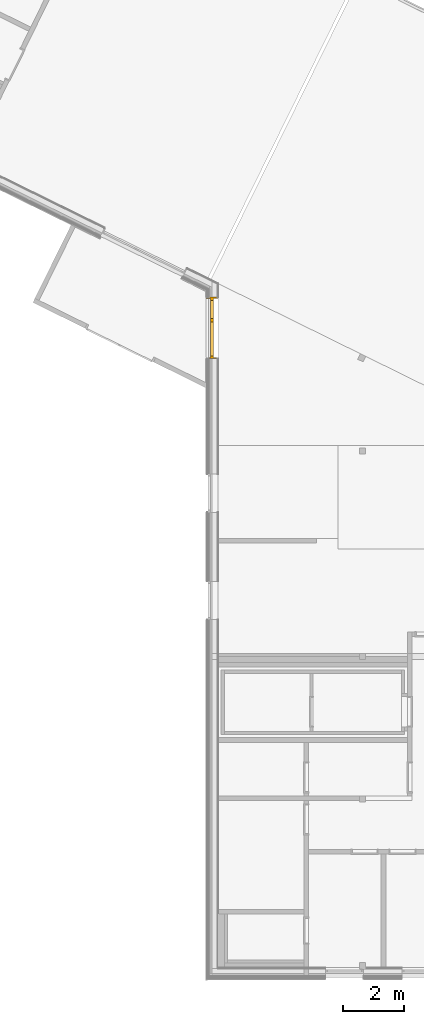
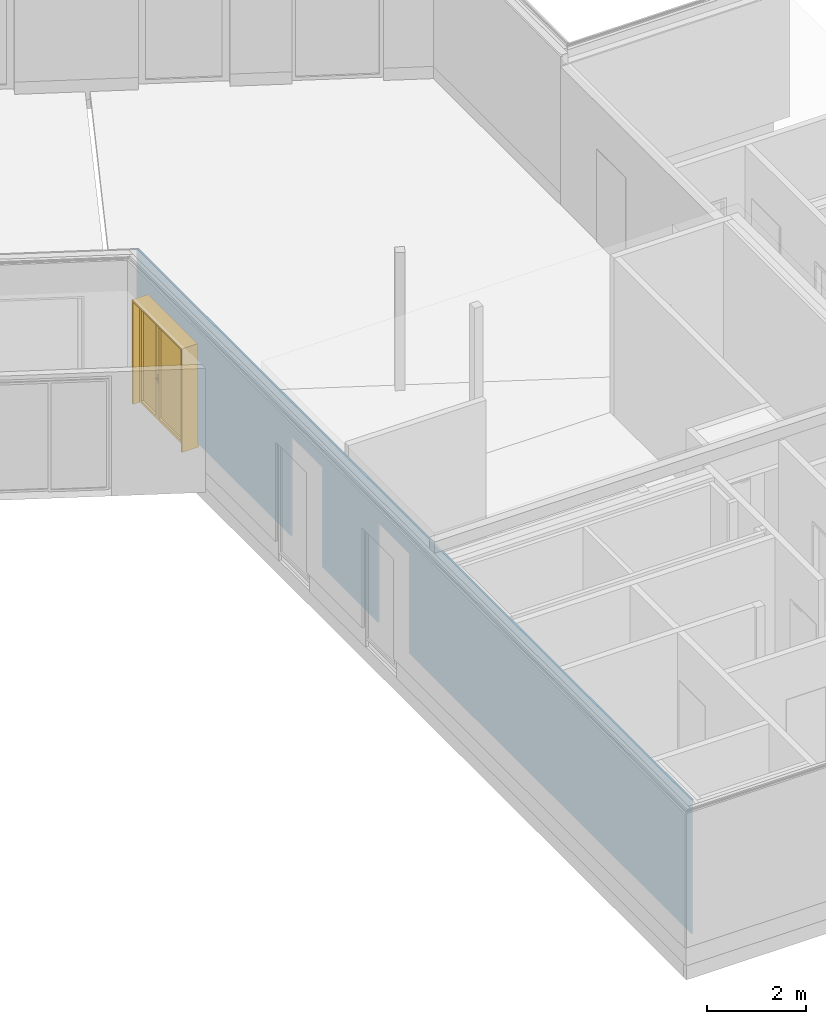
# One storey, part 16 of 23: 1 door, 3 openings, plus 1 element that does not belong to this part.
"""IFC4 building model written with IfcOpenShell, lengths in metres."""

from ifc_helpers import new_model, entity, si_unit, converted_unit, derived_unit, frame, origin, origin_with_axes, place, context, subcontext, project, spatial, polyline, outline, extrude, closed_shell, open_shell, surface_model, source, transform, mapped, material, element, fill, save


model = new_model("IFC4")

# Units and contexts
model_context = context("Model", 3, precision=1e-05, world=origin())
body_context = subcontext(model_context, "Body", "Model", "MODEL_VIEW")
ifc_project = project(units=[si_unit("LENGTHUNIT", "METRE"), si_unit("AREAUNIT", "SQUARE_METRE"), si_unit("VOLUMEUNIT", "CUBIC_METRE"), si_unit("MASSUNIT", "GRAM", prefix="KILO"), converted_unit("PLANEANGLEUNIT", "DEGREE", entity("IfcPlaneAngleMeasure", 0.0174532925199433), si_unit("PLANEANGLEUNIT", "RADIAN"), dimensions=[0, 0, 0, 0, 0, 0, 0]), derived_unit("THERMALTRANSMITTANCEUNIT", [(si_unit("POWERUNIT", "WATT"), 1), (si_unit("THERMODYNAMICTEMPERATUREUNIT", "KELVIN"), -1), (si_unit("LENGTHUNIT", "METRE"), -2)]), derived_unit("VOLUMETRICFLOWRATEUNIT", [(si_unit("LENGTHUNIT", "METRE"), 3), (converted_unit("TIMEUNIT", "hour", entity("IfcTimeMeasure", 3600.0), si_unit("TIMEUNIT", "SECOND"), dimensions=[0, 0, 1, 0, 0, 0, 0]), -1), (si_unit("LENGTHUNIT", "METRE"), -1)])], contexts=[model_context])

# Site, building, storey
site_placement = place(None, origin())
site = spatial("IfcSite", under=ifc_project, at=site_placement, Name="Psychiatrie Neubau Wunstorf", CompositionType="ELEMENT")
building_placement = place(site_placement, origin())
building = spatial("IfcBuilding", under=site, at=building_placement, Name="Neubau H1 Sozialzentrum", CompositionType="ELEMENT")
storey_placement = place(building_placement, frame((0.0, 0.0, 0.7)))
storey = spatial("IfcBuildingStorey", under=building, at=storey_placement, Name="H1 Ebene 0", CompositionType="ELEMENT", Elevation=0.7)

# Wall, openings, door
ifc_material_1 = material(Name="WA-LB")
wall_placement = place(storey_placement, frame((-15.8625266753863, 4.22632136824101, 0.3), z_axis=(0.0, 0.0, 1.0), x_axis=(8.14047304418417e-17, 1.0, 0.0)))
wall = element("IfcWall", 1, at=wall_placement, inside=storey, material=ifc_material_1, context=body_context, shape_type="SweptSolid", body=[
    extrude(outline(polyline([(0.0, -0.0359999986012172), (22.345008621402, -0.0359999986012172), (22.3627585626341, 0.0), (0.0, 0.0), (0.0, -0.0359999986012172)])), frame((0.0, 0.0359999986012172, 0.0), z_axis=(0.0, 0.0, 1.0), x_axis=(1.0, 0.0, 0.0)), (0.0, 0.0, 1.0), 3.3),
])
opening_1_placement = place(wall_placement, frame((12.6339998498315, 0.0359999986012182, -0.5), z_axis=(0.0, -1.0, 0.0), x_axis=(0.0, 0.0, 1.0)))
element("IfcOpeningElement", 2, at=opening_1_placement, cuts=wall, Name="Fensteröffnung", ObjectType="Opening", context=body_context, shape_type="SweptSolid", body=[
    extrude(outline(polyline([(2.95, 1.25), (2.95, 0.0), (0.0, 0.0), (0.0, 1.25), (2.95, 1.25)])), origin_with_axes(), (0.0, 0.0, 1.0), 0.0359999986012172),
])
opening_2_placement = place(wall_placement, frame((16.1339998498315, 0.0359999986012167, -0.5), z_axis=(0.0, -1.0, 0.0), x_axis=(0.0, 0.0, 1.0)))
element("IfcOpeningElement", 3, at=opening_2_placement, cuts=wall, Name="Fensteröffnung", ObjectType="Opening", context=body_context, shape_type="SweptSolid", body=[
    extrude(outline(polyline([(2.95, 1.25), (2.95, 0.0), (0.0, 0.0), (0.0, 1.25), (2.95, 1.25)])), origin_with_axes(), (0.0, 0.0, 1.0), 0.0359999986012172),
])
opening_3_placement = place(wall_placement, frame((19.9022323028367, 0.0, -0.3), z_axis=(0.0, 1.0, 0.0), x_axis=(0.0, 0.0, 1.0)))
opening_3 = element("IfcOpeningElement", 4, at=opening_3_placement, cuts=wall, Name="Türöffnung", ObjectType="Opening", context=body_context, shape_type="SweptSolid", body=[
    extrude(outline(polyline([(2.75, 1.9999724), (2.75, 0.0), (0.0, 0.0), (0.0, 1.9999724), (2.75, 1.9999724)])), origin_with_axes(), (0.0, 0.0, 1.0), 0.0359999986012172),
])
ifc_material_2 = material(Name="TI-1F-UZ-ZK")
shared_shape = source(origin_with_axes(), body_context, "Body", "SurfaceModel", [
    surface_model("IfcShellBasedSurfaceModel", [(0.0, 0.401999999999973, 2.75), (0.0, 0.401999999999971, 0.2), (0.0399999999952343, 0.401999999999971, 0.2), (0.0399999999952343, 0.401999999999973, 2.75), (0.0, 1.38884275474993e-06, 0.2), (0.0, 1.38884275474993e-06, 2.75), (0.0399999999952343, 1.38884275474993e-06, 2.75), (0.0399999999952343, 1.38884275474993e-06, 0.2)], [closed_shell([[[0, 1, 2, 3]], [[4, 5, 6, 7]], [[1, 0, 5, 4]], [[2, 1, 4, 7]], [[3, 2, 7, 6]], [[0, 3, 6, 5]]], orient=[[False], [False], [False], [False], [False], [False]])]),
    surface_model("IfcShellBasedSurfaceModel", [(1.95997240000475, 0.401999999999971, 2.75), (1.95997240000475, 0.401999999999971, 0.2), (1.99997239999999, 0.401999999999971, 0.2), (1.99997239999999, 0.401999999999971, 2.75), (1.95997240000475, 1.38884275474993e-06, 0.2), (1.95997240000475, 1.38884275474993e-06, 2.75), (1.99997239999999, 1.38884275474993e-06, 2.75), (1.99997239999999, 1.38884275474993e-06, 0.2)], [closed_shell([[[0, 1, 2, 3]], [[4, 5, 6, 7]], [[1, 0, 5, 4]], [[2, 1, 4, 7]], [[3, 2, 7, 6]], [[0, 3, 6, 5]]], orient=[[False], [False], [False], [False], [False], [False]])]),
    surface_model("IfcShellBasedSurfaceModel", [(0.0399999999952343, 0.401999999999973, 2.75), (0.0399999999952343, 0.401999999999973, 2.71), (1.95997240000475, 0.401999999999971, 2.71), (1.95997240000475, 0.401999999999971, 2.75), (0.0399999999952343, 1.38884275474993e-06, 2.71), (0.0399999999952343, 1.38884275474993e-06, 2.75), (1.95997240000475, 1.38884275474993e-06, 2.75), (1.95997240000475, 1.38884275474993e-06, 2.71)], [closed_shell([[[0, 1, 2, 3]], [[4, 5, 6, 7]], [[1, 0, 5, 4]], [[2, 1, 4, 7]], [[3, 2, 7, 6]], [[0, 3, 6, 5]]], orient=[[False], [False], [False], [False], [False], [False]])]),
    surface_model("IfcShellBasedSurfaceModel", [(0.0199999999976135, 0.251000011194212, 2.73), (0.0199999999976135, 0.251000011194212, 0.2), (0.0899999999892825, 0.251000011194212, 0.2), (0.0899999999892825, 0.251000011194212, 2.73), (0.0199999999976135, 0.151000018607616, 0.2), (0.0199999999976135, 0.151000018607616, 2.73), (0.0899999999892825, 0.151000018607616, 2.73), (0.0899999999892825, 0.151000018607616, 0.2)], [closed_shell([[[0, 1, 2, 3]], [[4, 5, 6, 7]], [[1, 0, 5, 4]], [[2, 1, 4, 7]], [[3, 2, 7, 6]], [[0, 3, 6, 5]]], orient=[[False], [False], [False], [False], [False], [False]])]),
    surface_model("IfcShellBasedSurfaceModel", [(1.18949999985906, 0.251000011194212, 2.73), (1.18949999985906, 0.251000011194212, 0.2), (1.25949999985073, 0.251000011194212, 0.2), (1.25949999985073, 0.251000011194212, 2.73), (1.18949999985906, 0.151000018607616, 0.2), (1.18949999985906, 0.151000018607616, 2.73), (1.25949999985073, 0.151000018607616, 2.73), (1.25949999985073, 0.151000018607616, 0.2)], [closed_shell([[[0, 1, 2, 3]], [[4, 5, 6, 7]], [[1, 0, 5, 4]], [[2, 1, 4, 7]], [[3, 2, 7, 6]], [[0, 3, 6, 5]]], orient=[[False], [False], [False], [False], [False], [False]])]),
    surface_model("IfcShellBasedSurfaceModel", [(0.0899999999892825, 0.251000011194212, 0.27), (0.0899999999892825, 0.251000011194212, 0.2), (1.18949999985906, 0.251000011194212, 0.2), (1.18949999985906, 0.251000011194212, 0.27), (0.0899999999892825, 0.151000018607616, 0.2), (0.0899999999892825, 0.151000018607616, 0.27), (1.18949999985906, 0.151000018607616, 0.27), (1.18949999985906, 0.151000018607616, 0.2)], [closed_shell([[[0, 1, 2, 3]], [[4, 5, 6, 7]], [[1, 0, 5, 4]], [[2, 1, 4, 7]], [[3, 2, 7, 6]], [[0, 3, 6, 5]]], orient=[[False], [False], [False], [False], [False], [False]])]),
    surface_model("IfcShellBasedSurfaceModel", [(0.0899999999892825, 0.251000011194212, 2.73), (0.0899999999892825, 0.251000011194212, 2.66), (1.18949999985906, 0.251000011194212, 2.66), (1.18949999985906, 0.251000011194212, 2.73), (0.0899999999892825, 0.151000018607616, 2.66), (0.0899999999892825, 0.151000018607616, 2.73), (1.18949999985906, 0.151000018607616, 2.73), (1.18949999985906, 0.151000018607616, 2.66)], [closed_shell([[[0, 1, 2, 3]], [[4, 5, 6, 7]], [[1, 0, 5, 4]], [[2, 1, 4, 7]], [[3, 2, 7, 6]], [[0, 3, 6, 5]]], orient=[[False], [False], [False], [False], [False], [False]])]),
    surface_model("IfcShellBasedSurfaceModel", [(1.19949999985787, 0.151000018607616, 1.325), (1.19949999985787, 0.151000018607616, 1.11), (1.24949999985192, 0.151000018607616, 1.11), (1.24949999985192, 0.151000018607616, 1.325), (1.19949999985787, 0.141000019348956, 1.11), (1.19949999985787, 0.141000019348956, 1.325), (1.24949999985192, 0.141000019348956, 1.325), (1.24949999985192, 0.141000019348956, 1.11)], [closed_shell([[[0, 1, 2, 3]], [[4, 5, 6, 7]], [[1, 0, 5, 4]], [[2, 1, 4, 7]], [[3, 2, 7, 6]], [[0, 3, 6, 5]]], orient=[[False], [False], [False], [False], [False], [False]])]),
    surface_model("IfcShellBasedSurfaceModel", [(1.2244999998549, 0.141000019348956, 1.26), (1.21949999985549, 0.141000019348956, 1.25866025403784), (1.21583974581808, 0.141000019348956, 1.255), (1.21449999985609, 0.141000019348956, 1.25), (1.21583974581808, 0.141000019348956, 1.245), (1.21949999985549, 0.141000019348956, 1.24133974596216), (1.2244999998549, 0.141000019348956, 1.24), (1.2294999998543, 0.141000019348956, 1.24133974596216), (1.23316025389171, 0.141000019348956, 1.245), (1.23449999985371, 0.141000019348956, 1.25), (1.23316025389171, 0.141000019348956, 1.255), (1.2294999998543, 0.141000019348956, 1.25866025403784), (1.2294999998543, 0.0960000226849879, 1.25866025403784), (1.2244999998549, 0.101000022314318, 1.26), (1.23316025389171, 0.0923397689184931, 1.255), (1.23449999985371, 0.0910000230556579, 1.25), (1.23316025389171, 0.0923397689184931, 1.245), (1.2294999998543, 0.0960000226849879, 1.24133974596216), (1.2244999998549, 0.101000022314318, 1.24), (1.21949999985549, 0.106000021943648, 1.24133974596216), (1.21583974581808, 0.109660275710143, 1.245), (1.21449999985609, 0.111000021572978, 1.25), (1.21583974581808, 0.109660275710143, 1.255), (1.21949999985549, 0.106000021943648, 1.25866025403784), (1.10949999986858, 0.101000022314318, 1.26), (1.10949999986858, 0.0960000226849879, 1.25866025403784), (1.10949999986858, 0.0923397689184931, 1.255), (1.10949999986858, 0.0910000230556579, 1.25), (1.10949999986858, 0.0923397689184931, 1.245), (1.10949999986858, 0.0960000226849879, 1.24133974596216), (1.10949999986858, 0.101000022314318, 1.24), (1.10949999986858, 0.106000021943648, 1.24133974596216), (1.10949999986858, 0.109660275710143, 1.245), (1.10949999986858, 0.111000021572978, 1.25), (1.10949999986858, 0.109660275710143, 1.255), (1.10949999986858, 0.106000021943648, 1.25866025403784)], [closed_shell([[[0, 1, 2, 3, 4, 5, 6, 7, 8, 9, 10, 11]], [[0, 11, 12, 13]], [[11, 10, 14, 12]], [[10, 9, 15, 14]], [[9, 8, 16, 15]], [[8, 7, 17, 16]], [[7, 6, 18, 17]], [[6, 5, 19, 18]], [[5, 4, 20, 19]], [[4, 3, 21, 20]], [[3, 2, 22, 21]], [[2, 1, 23, 22]], [[1, 0, 13, 23]], [[24, 25, 26, 27, 28, 29, 30, 31, 32, 33, 34, 35]], [[13, 12, 25, 24]], [[12, 14, 26, 25]], [[14, 15, 27, 26]], [[15, 16, 28, 27]], [[16, 17, 29, 28]], [[17, 18, 30, 29]], [[18, 19, 31, 30]], [[19, 20, 32, 31]], [[20, 21, 33, 32]], [[21, 22, 34, 33]], [[22, 23, 35, 34]], [[23, 13, 24, 35]]], orient=[[False], [False], [False], [False], [False], [False], [False], [False], [False], [False], [False], [False], [False], [False], [False], [False], [False], [False], [False], [False], [False], [False], [False], [False], [False], [False]])]),
    surface_model("IfcShellBasedSurfaceModel", [(1.19949999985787, 0.251000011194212, 1.325), (1.24949999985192, 0.251000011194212, 1.325), (1.24949999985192, 0.251000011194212, 1.11), (1.19949999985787, 0.251000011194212, 1.11), (1.19949999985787, 0.261000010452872, 1.11), (1.24949999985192, 0.261000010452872, 1.11), (1.24949999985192, 0.261000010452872, 1.325), (1.19949999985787, 0.261000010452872, 1.325)], [closed_shell([[[0, 1, 2, 3]], [[4, 5, 6, 7]], [[3, 4, 7, 0]], [[2, 5, 4, 3]], [[1, 6, 5, 2]], [[0, 7, 6, 1]]], orient=[[False], [False], [False], [False], [False], [False]])]),
    surface_model("IfcShellBasedSurfaceModel", [(1.2244999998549, 0.261000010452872, 1.26), (1.2294999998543, 0.261000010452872, 1.25866025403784), (1.23316025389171, 0.261000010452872, 1.255), (1.23449999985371, 0.261000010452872, 1.25), (1.23316025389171, 0.261000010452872, 1.245), (1.2294999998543, 0.261000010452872, 1.24133974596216), (1.2244999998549, 0.261000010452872, 1.24), (1.21949999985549, 0.261000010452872, 1.24133974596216), (1.21583974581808, 0.261000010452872, 1.245), (1.21449999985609, 0.261000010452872, 1.25), (1.21583974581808, 0.261000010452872, 1.255), (1.21949999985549, 0.261000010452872, 1.25866025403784), (1.2244999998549, 0.30100000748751, 1.26), (1.2294999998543, 0.30600000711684, 1.25866025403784), (1.23316025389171, 0.309660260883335, 1.255), (1.23449999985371, 0.31100000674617, 1.25), (1.23316025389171, 0.309660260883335, 1.245), (1.2294999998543, 0.30600000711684, 1.24133974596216), (1.2244999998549, 0.30100000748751, 1.24), (1.21949999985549, 0.29600000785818, 1.24133974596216), (1.21583974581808, 0.292339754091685, 1.245), (1.21449999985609, 0.29100000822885, 1.25), (1.21583974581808, 0.292339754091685, 1.255), (1.21949999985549, 0.29600000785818, 1.25866025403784), (1.10949999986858, 0.30100000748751, 1.26), (1.10949999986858, 0.29600000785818, 1.25866025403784), (1.10949999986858, 0.292339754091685, 1.255), (1.10949999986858, 0.29100000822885, 1.25), (1.10949999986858, 0.292339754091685, 1.245), (1.10949999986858, 0.29600000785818, 1.24133974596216), (1.10949999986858, 0.30100000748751, 1.24), (1.10949999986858, 0.30600000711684, 1.24133974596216), (1.10949999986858, 0.309660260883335, 1.245), (1.10949999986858, 0.31100000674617, 1.25), (1.10949999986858, 0.309660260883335, 1.255), (1.10949999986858, 0.30600000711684, 1.25866025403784)], [closed_shell([[[0, 1, 2, 3, 4, 5, 6, 7, 8, 9, 10, 11]], [[0, 12, 13, 1]], [[1, 13, 14, 2]], [[2, 14, 15, 3]], [[3, 15, 16, 4]], [[4, 16, 17, 5]], [[5, 17, 18, 6]], [[6, 18, 19, 7]], [[7, 19, 20, 8]], [[8, 20, 21, 9]], [[9, 21, 22, 10]], [[10, 22, 23, 11]], [[11, 23, 12, 0]], [[24, 25, 26, 27, 28, 29, 30, 31, 32, 33, 34, 35]], [[12, 24, 35, 13]], [[13, 35, 34, 14]], [[14, 34, 33, 15]], [[15, 33, 32, 16]], [[16, 32, 31, 17]], [[17, 31, 30, 18]], [[18, 30, 29, 19]], [[19, 29, 28, 20]], [[20, 28, 27, 21]], [[21, 27, 26, 22]], [[22, 26, 25, 23]], [[23, 25, 24, 12]]], orient=[[False], [False], [False], [False], [False], [False], [False], [False], [False], [False], [False], [False], [False], [False], [False], [False], [False], [False], [False], [False], [False], [False], [False], [False], [False], [False]])]),
    surface_model("IfcShellBasedSurfaceModel", [(1.24049999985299, 0.251000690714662, 2.71), (1.24049999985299, 0.251000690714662, 0.2), (1.31049999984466, 0.251000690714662, 0.2), (1.31049999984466, 0.251000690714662, 2.71), (1.24049999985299, 0.151000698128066, 0.2), (1.24049999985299, 0.151000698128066, 2.71), (1.31049999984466, 0.151000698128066, 2.71), (1.31049999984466, 0.151000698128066, 0.2)], [closed_shell([[[0, 1, 2, 3]], [[4, 5, 6, 7]], [[1, 0, 5, 4]], [[2, 1, 4, 7]], [[3, 2, 7, 6]], [[0, 3, 6, 5]]], orient=[[False], [False], [False], [False], [False], [False]])]),
    surface_model("IfcShellBasedSurfaceModel", [(1.88997240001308, 0.251000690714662, 2.71), (1.88997240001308, 0.251000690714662, 0.2), (1.95997240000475, 0.251000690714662, 0.2), (1.95997240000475, 0.251000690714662, 2.71), (1.88997240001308, 0.151000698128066, 0.2), (1.88997240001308, 0.151000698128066, 2.71), (1.95997240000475, 0.151000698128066, 2.71), (1.95997240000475, 0.151000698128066, 0.2)], [closed_shell([[[0, 1, 2, 3]], [[4, 5, 6, 7]], [[1, 0, 5, 4]], [[2, 1, 4, 7]], [[3, 2, 7, 6]], [[0, 3, 6, 5]]], orient=[[False], [False], [False], [False], [False], [False]])]),
    surface_model("IfcShellBasedSurfaceModel", [(1.31049999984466, 0.251000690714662, 0.27), (1.31049999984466, 0.251000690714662, 0.2), (1.88997240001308, 0.251000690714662, 0.2), (1.88997240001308, 0.251000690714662, 0.27), (1.31049999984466, 0.151000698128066, 0.2), (1.31049999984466, 0.151000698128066, 0.27), (1.88997240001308, 0.151000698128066, 0.27), (1.88997240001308, 0.151000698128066, 0.2)], [closed_shell([[[0, 1, 2, 3]], [[4, 5, 6, 7]], [[1, 0, 5, 4]], [[2, 1, 4, 7]], [[3, 2, 7, 6]], [[0, 3, 6, 5]]], orient=[[False], [False], [False], [False], [False], [False]])]),
    surface_model("IfcShellBasedSurfaceModel", [(1.31049999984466, 0.251000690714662, 2.71), (1.31049999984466, 0.251000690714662, 2.64), (1.88997240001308, 0.251000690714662, 2.64), (1.88997240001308, 0.251000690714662, 2.71), (1.31049999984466, 0.151000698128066, 2.64), (1.31049999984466, 0.151000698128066, 2.71), (1.88997240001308, 0.151000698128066, 2.71), (1.88997240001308, 0.151000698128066, 2.64)], [closed_shell([[[0, 1, 2, 3]], [[4, 5, 6, 7]], [[1, 0, 5, 4]], [[2, 1, 4, 7]], [[3, 2, 7, 6]], [[0, 3, 6, 5]]], orient=[[False], [False], [False], [False], [False], [False]])]),
    surface_model("IfcShellBasedSurfaceModel", [(0.0899999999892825, 0.201000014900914, 0.27), (1.18949999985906, 0.201000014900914, 0.27), (1.18949999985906, 0.201000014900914, 2.66), (0.0899999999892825, 0.201000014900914, 2.66)], [open_shell([[[0, 1, 2, 3]]], orient=[[False]])]),
    surface_model("IfcShellBasedSurfaceModel", [(1.31049999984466, 0.201000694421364, 0.27), (1.88997240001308, 0.201000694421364, 0.27), (1.88997240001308, 0.201000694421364, 2.64), (1.31049999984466, 0.201000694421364, 2.64)], [open_shell([[[0, 1, 2, 3]]], orient=[[False]])]),
])
door_placement = place(opening_3_placement, frame((0.0, 0.0, -1.38884275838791e-06), z_axis=(1.0, 0.0, 0.0), x_axis=(0.0, 1.0, 8.14047304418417e-17)))
door = element("IfcDoor", 5, at=door_placement, inside=storey, material=ifc_material_2, Name="SMT", OperationType="USERDEFINED", OverallHeight=2.75, OverallWidth=1.99997, PredefinedType="DOOR", context=body_context, shape_type="MappedRepresentation", body=[
    mapped(shared_shape, transform((0.0, 0.0, 0.0), x_axis=(1.0, 0.0, 0.0), y_axis=(0.0, 1.0, 0.0), z_axis=(0.0, 0.0, 1.0), scale=1.0)),
])
fill(opening_3, door)

save(model, "model.ifc")
